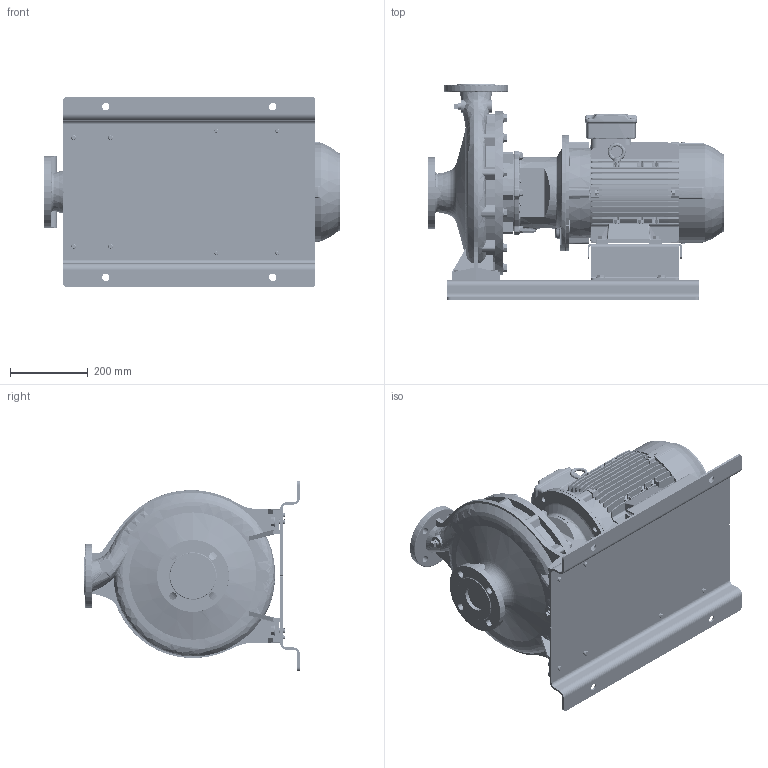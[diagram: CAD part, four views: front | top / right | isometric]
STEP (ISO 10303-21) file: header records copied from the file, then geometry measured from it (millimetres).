
FILE_DESCRIPTION (( 'STEP AP214' ), '1' );
FILE_NAME ('GSD4 50-315_5.5_(132S)_W21_BP.STEP', '2024-08-12T05:55:22', ( '' ), ( '' ), 'SwSTEP 2.0', 'SolidWorks 2019', '' );
FILE_SCHEMA (( 'AUTOMOTIVE_DESIGN' ));
Length unit declared in the file: millimetre
Products named in the file (22): Parametric bolt and washer_SFT-A249B; 132S ALIE3_W21T_B35; Parametric Flat Washer_M12; N5S5 GSDA-558 F1-1832921-00; Parametric bolt and washer_SFT-A253B; Parametric bolt and washer_SFT-A299B; GSD4 50-315_5.5_(132S)_W21_BP; Parametric Flat Washer_M10; 140_178 x 93 BP - CGSDA-5244; Parametric bolt_SFT-A253B; Parametric bolt_SFT-A299B; Parametric bolt_SFT-A249B; 50-315-132S_______
Assembly tree (40 placements, depth 3):
  GSD4 50-315_5.5_(132S)_W21_BP
    50-315-132S_______
    N5S5 GSDA-558 F1-1832921-00
    140_178 x 93 BP - CGSDA-5244
    Parametric bolt and washer_SFT-A249B
      Parametric bolt_SFT-A249B
      Parametric Flat Washer_M10
    Parametric bolt and washer_SFT-A249B
      Parametric bolt_SFT-A249B
      Parametric Flat Washer_M10
    Parametric bolt and washer_SFT-A249B
      Parametric bolt_SFT-A249B
      Parametric Flat Washer_M10
    Parametric bolt and washer_SFT-A249B
      Parametric bolt_SFT-A249B
      Parametric Flat Washer_M10
    Parametric bolt and washer_SFT-A299B
      Parametric bolt_SFT-A299B
      Parametric Flat Washer_M12
    Parametric bolt and washer_SFT-A299B
      Parametric bolt_SFT-A299B
      Parametric Flat Washer_M12
    Parametric bolt and washer_SFT-A299B
      Parametric bolt_SFT-A299B
      Parametric Flat Washer_M12
    Parametric bolt and washer_SFT-A299B
      Parametric bolt_SFT-A299B
      Parametric Flat Washer_M12
    Parametric bolt and washer_SFT-A253B
      Parametric bolt_SFT-A253B
      Parametric Flat Washer_M10
    Parametric bolt and washer_SFT-A253B
      Parametric bolt_SFT-A253B
      Parametric Flat Washer_M10
    Parametric bolt and washer_SFT-A253B
      Parametric bolt_SFT-A253B
      Parametric Flat Washer_M10
    Parametric bolt and washer_SFT-A253B
      Parametric bolt_SFT-A253B
      Parametric Flat Washer_M10
    132S ALIE3_W21T_B35
Bounding box: 764.8 x 555 x 490 mm (x, y, z)
Volume: 39060959.3 mm3; surface area: 3188618.9 mm2
Topology: 38 solids, 38 shells, 5171 faces, 13362 edges, 8599 vertices
Faces by surface type: plane 3059, cylinder 1214, cone 295, bspline 291, torus 280, sphere 32
Entity records: 175172 total; most frequent: CARTESIAN_POINT 62428, ORIENTED_EDGE 24164, DIRECTION 21886, EDGE_CURVE 12082, LINE 7944, VECTOR 7944, VERTEX_POINT 7783, AXIS2_PLACEMENT_3D 6971
